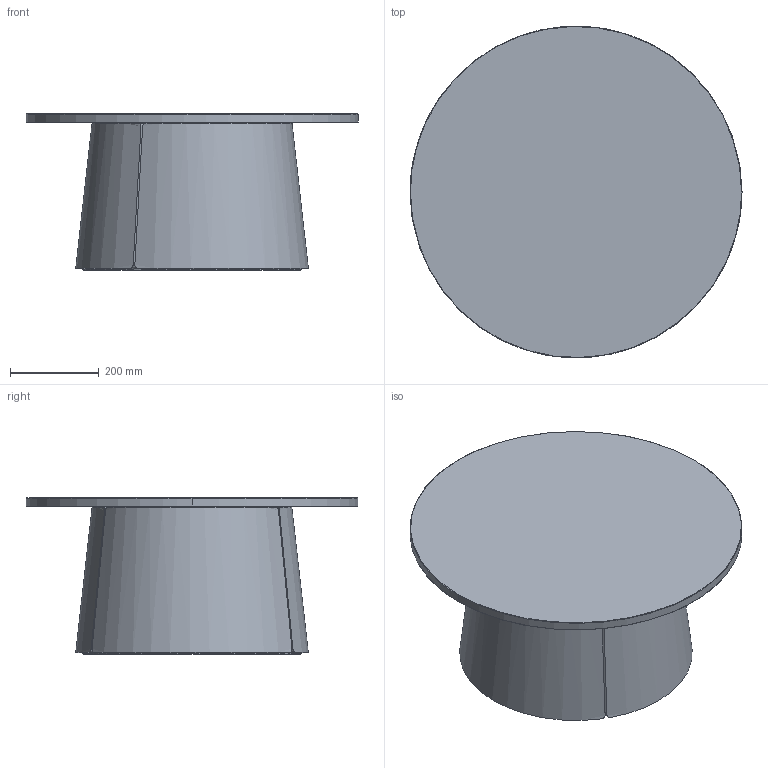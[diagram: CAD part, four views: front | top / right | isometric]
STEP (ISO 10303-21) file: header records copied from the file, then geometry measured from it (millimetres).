
FILE_DESCRIPTION(/* description */ (''),/* implementation_level */ '2;1');
FILE_NAME(/* name */ '20190222_BENT_side table_big',/* time_stamp */ '2019-02-22T11:17:30+01:00',/* author */ (''),/* organization */ (''),/* preprocessor_version */ 'ST-DEVELOPER v15',/* originating_system */ '',/* authorisation */ '');
FILE_SCHEMA (('AUTOMOTIVE_DESIGN'));
Length unit declared in the file: millimetre
Products named in the file (1): Document
Bounding box: 750 x 749.1 x 354 mm (x, y, z)
Volume: 23181833 mm3; surface area: 2689598.3 mm2
Topology: 6 solids, 6 shells, 46 faces, 98 edges, 64 vertices
Faces by surface type: bspline 40, plane 6
Entity records: 3897 total; most frequent: CARTESIAN_POINT 3248, ORIENTED_EDGE 196, EDGE_CURVE 98, VERTEX_POINT 64, B_SPLINE_CURVE_WITH_KNOTS 56, ADVANCED_FACE 46, FACE_OUTER_BOUND 46, EDGE_LOOP 46
